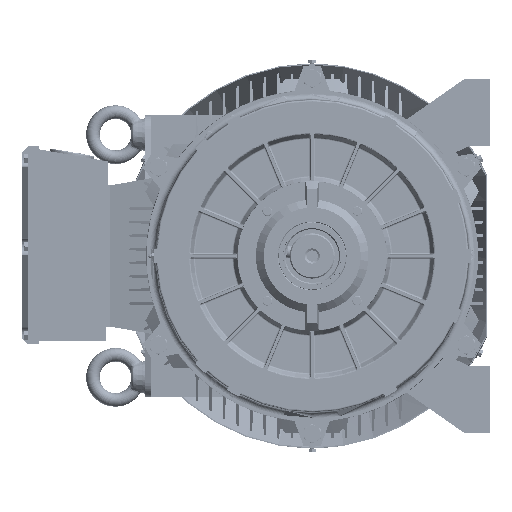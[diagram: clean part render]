
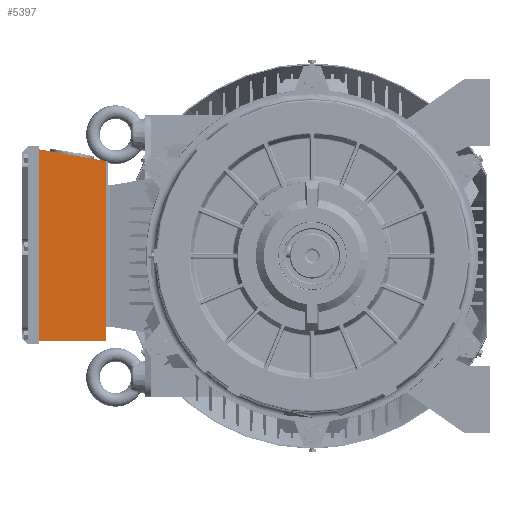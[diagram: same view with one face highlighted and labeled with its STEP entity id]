
A CAD part, left-side view. The second image highlights one B-rep face of the part: STEP entity #5397.
In plain terms, the highlighted planar face has unit normal (-1, 0, 0) as drawn and (0, 0, 1) by its records, which use the part's own axes.
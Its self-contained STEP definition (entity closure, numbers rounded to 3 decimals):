
#5397 = ADVANCED_FACE ( 'NONE', ( #10972 ), #101504, .T. ) ;
#10415 = ORIENTED_EDGE ( 'NONE', *, *, #277384, .T. ) ;
#10972 = FACE_OUTER_BOUND ( 'NONE', #253113, .T. ) ;
#45998 = CARTESIAN_POINT ( 'NONE',  ( 340.012, 122., 140. ) ) ;
#46754 = VERTEX_POINT ( 'NONE', #168025 ) ;
#46812 = LINE ( 'NONE', #115091, #146460 ) ;
#48885 = ORIENTED_EDGE ( 'NONE', *, *, #245249, .T. ) ;
#50846 = CARTESIAN_POINT ( 'NONE',  ( 0., 122., 140. ) ) ;
#52558 = DIRECTION ( 'NONE',  ( 0., 0., 1. ) ) ;
#52935 = ORIENTED_EDGE ( 'NONE', *, *, #60490, .T. ) ;
#60490 = EDGE_CURVE ( 'NONE', #160661, #46754, #236254, .T. ) ;
#64307 = CARTESIAN_POINT ( 'NONE',  ( 0., 3., 140. ) ) ;
#64951 = LINE ( 'NONE', #151092, #236775 ) ;
#67486 = VERTEX_POINT ( 'NONE', #115174 ) ;
#75156 = AXIS2_PLACEMENT_3D ( 'NONE', #76318, #52558, #100045 ) ;
#76318 = CARTESIAN_POINT ( 'NONE',  ( 26., 122., 140. ) ) ;
#87406 = EDGE_CURVE ( 'NONE', #46754, #67486, #46812, .T. ) ;
#100045 = DIRECTION ( 'NONE',  ( 1., 0., 0. ) ) ;
#101504 = PLANE ( 'NONE',  #75156 ) ;
#105118 = DIRECTION ( 'NONE',  ( 0.174, 0.985, 0. ) ) ;
#115091 = CARTESIAN_POINT ( 'NONE',  ( 0., 3., 140. ) ) ;
#115174 = CARTESIAN_POINT ( 'NONE',  ( 0., 3., 140. ) ) ;
#141391 = DIRECTION ( 'NONE',  ( -1., 0., 0. ) ) ;
#146460 = VECTOR ( 'NONE', #205590, 1000. ) ;
#151092 = CARTESIAN_POINT ( 'NONE',  ( 318.5, 0., 140. ) ) ;
#160661 = VERTEX_POINT ( 'NONE', #45998 ) ;
#168025 = CARTESIAN_POINT ( 'NONE',  ( 0., 122., 140. ) ) ;
#205590 = DIRECTION ( 'NONE',  ( 0., -1., 0. ) ) ;
#209177 = LINE ( 'NONE', #64307, #236735 ) ;
#224396 = CARTESIAN_POINT ( 'NONE',  ( 319.029, 3., 140. ) ) ;
#236254 = LINE ( 'NONE', #50846, #283327 ) ;
#236289 = VERTEX_POINT ( 'NONE', #224396 ) ;
#236735 = VECTOR ( 'NONE', #273021, 1000. ) ;
#236775 = VECTOR ( 'NONE', #105118, 1000. ) ;
#245249 = EDGE_CURVE ( 'NONE', #236289, #160661, #64951, .T. ) ;
#253113 = EDGE_LOOP ( 'NONE', ( #10415, #48885, #52935, #259233 ) ) ;
#259233 = ORIENTED_EDGE ( 'NONE', *, *, #87406, .T. ) ;
#273021 = DIRECTION ( 'NONE',  ( 1., 0., 0. ) ) ;
#277384 = EDGE_CURVE ( 'NONE', #67486, #236289, #209177, .T. ) ;
#283327 = VECTOR ( 'NONE', #141391, 1000. ) ;
